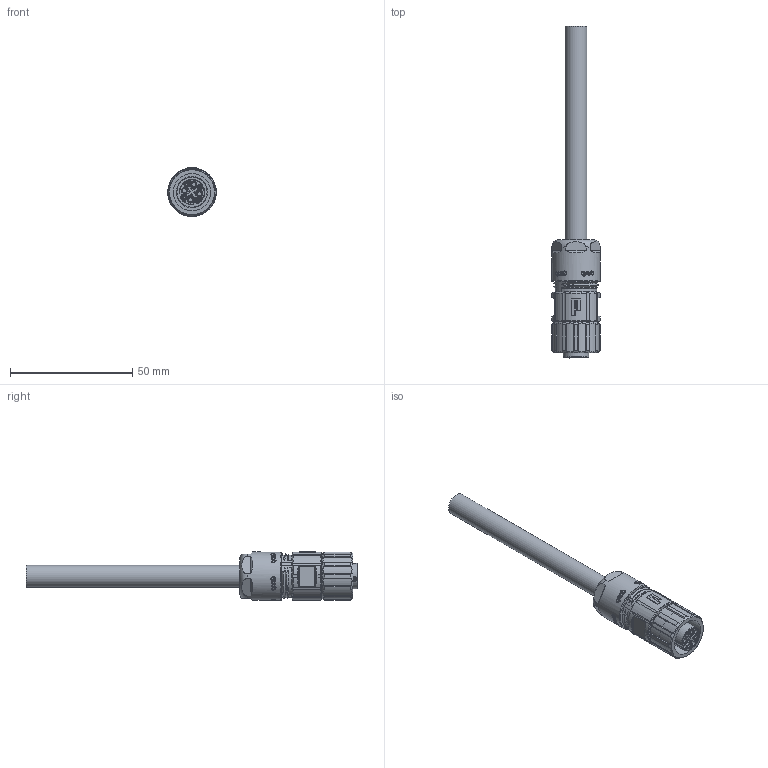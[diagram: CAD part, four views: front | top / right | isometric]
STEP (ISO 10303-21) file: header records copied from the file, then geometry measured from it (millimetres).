
FILE_DESCRIPTION(/* description */ ('Unknown'),/* implementation_level */ '2;1');
FILE_NAME(/* name */ 'WP04xx',/* time_stamp */ '2020-10-01T13:17:36+02:00',/* author */ ('Unknown'),/* organization */ ('Unknown'),/* preprocessor_version */ 'ST-DEVELOPER v16.7',/* originating_system */ 'Solid Edge',/* authorisation */ 'Unknown');
FILE_SCHEMA (('AUTOMOTIVE_DESIGN {1 0 10303 214 3 1 1}'));
Length unit declared in the file: millimetre
Products named in the file (5): WP04xx; WG0230; 7003943102; 7010981602; Cable 100 mm
Assembly tree (7 placements, depth 2):
  WP04xx
    WG0230
    7003943102
    7010981602  x4
    Cable 100 mm
Bounding box: 19.8 x 135.72 x 19.95 mm (x, y, z)
Volume: 17125.1 mm3; surface area: 11441.9 mm2
Topology: 7 solids, 7 shells, 1093 faces, 2914 edges, 1936 vertices
Faces by surface type: plane 744, cylinder 202, bspline 76, torus 37, cone 34
Full cylindrical faces by diameter (mm): 0.9 x4, 1.57 x8, 1.6 x4, 1.7 x4, 2.1 x4, 2.6 x4, 2.7 x4, 2.77 x4, 2.94 x3, 9 x1, 9.2 x1, 12.3 x1, 12.8 x1, 15.25 x1, 18.4 x1, 18.5 x1, 19.8 x1
Entity records: 41739 total; most frequent: CARTESIAN_POINT 10946, ORIENTED_EDGE 5592, DIRECTION 5374, EDGE_CURVE 2796, VERTEX_POINT 1884, AXIS2_PLACEMENT_3D 1879, LINE 1616, VECTOR 1616
